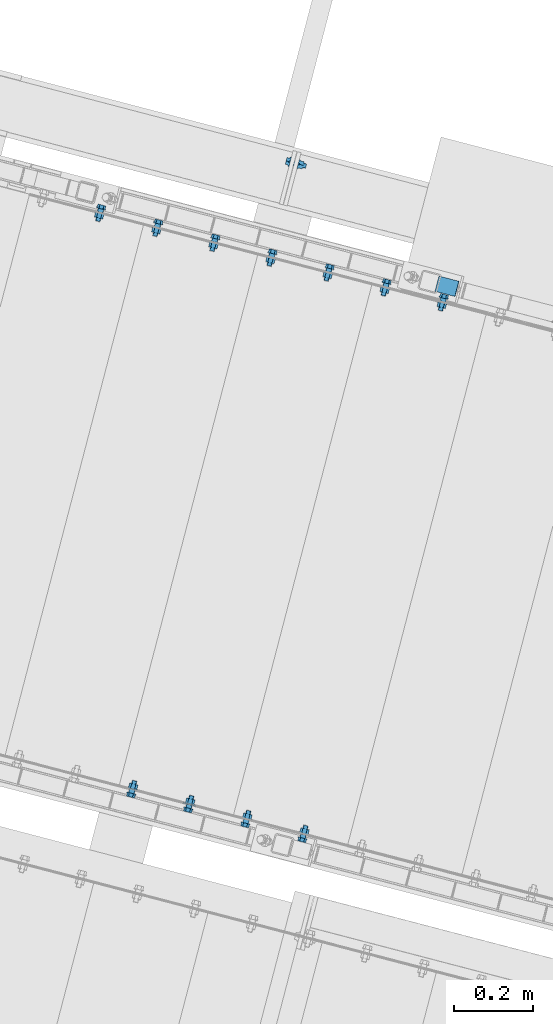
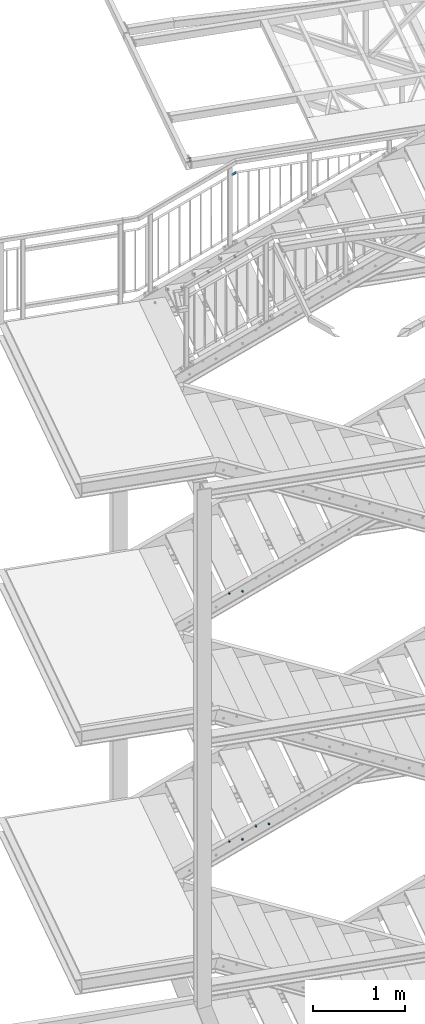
# One storey, part 148 of 169: 14 mechanical fasteners, 1 discrete accessory, 9 elements without a shape of their own.
"""IFC2X3 building model written with IfcOpenShell, lengths in millimetres."""

import ifcopenshell
import ifcopenshell.guid

model = None  # the IFC model being written
_history = None  # IfcOwnerHistory: only IFC2X3 demands one
_inside = {}  # id of a spatial element -> (the spatial element, [elements in it])
_under = {}  # id of a project, library or spatial element -> (it, [spatial elements below it])
_declared = {}  # id of a project -> (the project, [libraries it declares])
_typed = {}  # id of a type object -> (the type object, [elements of that type])
_made_of = {}  # id of a material, layer set ... -> (it, [elements and type objects made of it])


def new_model(schema):
    """Start an empty IFC model of exactly this schema.

    Asked for "IFC4X3", IfcOpenShell would pick the latest addendum, in which some entities
    have other attributes; the version numbers below select the first issue.
    IFC2X3 requires an IfcOwnerHistory on every rooted entity: one is made here for all.
    """
    global model, _history
    if schema == "IFC4X3":
        model = ifcopenshell.file(schema_version=(4, 3, 0, 0))
    else:
        model = ifcopenshell.file(schema=schema)
    _inside.clear()
    _under.clear()
    _declared.clear()
    _typed.clear()
    _made_of.clear()
    _history = None
    if model.schema == "IFC2X3":
        org = make("IfcOrganization", Name="unknown")
        user = make(
            "IfcPersonAndOrganization",
            ThePerson=make("IfcPerson", FamilyName="unknown"),
            TheOrganization=org,
        )
        app = make(
            "IfcApplication",
            ApplicationDeveloper=org,
            Version="unknown",
            ApplicationFullName="unknown",
            ApplicationIdentifier="unknown",
        )
        _history = make(
            "IfcOwnerHistory",
            OwningUser=user,
            OwningApplication=app,
            ChangeAction="ADDED",
            CreationDate=0,
        )
    return model


def make(cls, **values):
    """One entity of the class cls with the attributes given. An attribute that is None is left unset."""
    return model.create_entity(
        cls, **{name: value for name, value in values.items() if value is not None}
    )


def rooted(cls, **values):
    """An entity with a GlobalId (a new one), such as an element, a storey or a relation."""
    return make(cls, GlobalId=ifcopenshell.guid.new(), OwnerHistory=_history, **values)


def si_unit(unit_type, name, prefix=None):
    """IfcSIUnit, for example si_unit("LENGTHUNIT", "METRE", prefix="MILLI")."""
    return make("IfcSIUnit", UnitType=unit_type, Prefix=prefix, Name=name)


def assignment(units):
    """IfcUnitAssignment: the units of a project."""
    return None if units is None else make("IfcUnitAssignment", Units=units)


def point(xyz):
    """IfcCartesianPoint."""
    return None if xyz is None else make("IfcCartesianPoint", Coordinates=xyz)


def direction(xyz):
    """IfcDirection."""
    return None if xyz is None else make("IfcDirection", DirectionRatios=xyz)


def frame(location, z_axis=None, x_axis=None):
    """IfcAxis2Placement3D, a coordinate frame: its origin and axes. An axis left out is left unset."""
    return make(
        "IfcAxis2Placement3D",
        Location=point(location),
        Axis=direction(z_axis),
        RefDirection=direction(x_axis),
    )


def frame_2d(location, x_axis=None):
    """IfcAxis2Placement2D, a coordinate frame in the plane: its origin and x axis."""
    return make(
        "IfcAxis2Placement2D", Location=point(location), RefDirection=direction(x_axis)
    )


def origin_with_axes():
    """The frame at (0, 0, 0) with the z axis (0, 0, 1) and the x axis (1, 0, 0) written out."""
    return frame((0.0, 0.0, 0.0), z_axis=(0.0, 0.0, 1.0), x_axis=(1.0, 0.0, 0.0))


def origin_2d_with_axis():
    """The frame at (0, 0) in the plane with the x axis (1, 0) written out."""
    return frame_2d((0.0, 0.0), x_axis=(1.0, 0.0))


def place(relative_to, where):
    """IfcLocalPlacement: puts the frame where relative to a parent placement (None: the world)."""
    return make(
        "IfcLocalPlacement", PlacementRelTo=relative_to, RelativePlacement=where
    )


def context(
    kind, dimensions, precision=None, world=None, true_north=None, identifier=None
):
    """IfcGeometricRepresentationContext, for example the 3D "Model" context."""
    return make(
        "IfcGeometricRepresentationContext",
        ContextIdentifier=identifier,
        ContextType=kind,
        CoordinateSpaceDimension=dimensions,
        Precision=precision,
        WorldCoordinateSystem=world,
        TrueNorth=true_north,
    )


def subcontext(parent, identifier, kind, view, scale=None):
    """IfcGeometricRepresentationSubContext, for example "Body" below "Model"."""
    return make(
        "IfcGeometricRepresentationSubContext",
        ContextIdentifier=identifier,
        ContextType=kind,
        ParentContext=parent,
        TargetScale=scale,
        TargetView=view,
    )


def project(units=None, contexts=None):
    """IfcProject with its units and contexts."""
    return rooted(
        "IfcProject",
        Name="project",
        RepresentationContexts=contexts,
        UnitsInContext=assignment(units),
    )


def spatial(cls, under=None, at=None, **own):
    """A site, building, storey or space (cls), placed at a placement, below another one or the project."""
    s = rooted(cls, ObjectPlacement=at, **own)
    if under is not None:
        _under.setdefault(under.id(), (under, []))[1].append(s)
    return s


def polyline(points):
    """IfcPolyline through the points."""
    return make("IfcPolyline", Points=[point(p) for p in points])


def circle_curve(where, radius):
    """IfcCircle in the frame where."""
    return make("IfcCircle", Position=where, Radius=radius)


def parameter(value):
    """IfcParameterValue: where a trimmed curve begins or ends, as a parameter of its basis curve."""
    return model.create_entity("IfcParameterValue", value)


def trimmed(basis, trim1, trim2, sense, master):
    """IfcTrimmedCurve: the piece of a basis curve between two trims."""
    return make(
        "IfcTrimmedCurve",
        BasisCurve=basis,
        Trim1=trim1,
        Trim2=trim2,
        SenseAgreement=sense,
        MasterRepresentation=master,
    )


def segment(curve, same_sense, transition):
    """IfcCompositeCurveSegment."""
    return make(
        "IfcCompositeCurveSegment",
        Transition=transition,
        SameSense=same_sense,
        ParentCurve=curve,
    )


def composite_curve(segments, self_intersect=None):
    """IfcCompositeCurve: segments joined end to end."""
    return make("IfcCompositeCurve", Segments=segments, SelfIntersect=self_intersect)


def profile(cls, at=None, kind="AREA", **sizes):
    """A parametric profile (cls). Its sizes go by their IFC names, for example OverallWidth=200.0."""
    return make(cls, ProfileType=kind, Position=at, **sizes)


def rectangle(**sizes):
    """IfcRectangleProfileDef."""
    return profile("IfcRectangleProfileDef", **sizes)


def circle(**sizes):
    """IfcCircleProfileDef."""
    return profile("IfcCircleProfileDef", **sizes)


def outline(outer, holes=None, kind="AREA"):
    """IfcArbitraryClosedProfileDef: a profile drawn as a closed curve; with holes, ...WithVoids."""
    if holes is None:
        return make("IfcArbitraryClosedProfileDef", ProfileType=kind, OuterCurve=outer)
    return make(
        "IfcArbitraryProfileDefWithVoids",
        ProfileType=kind,
        OuterCurve=outer,
        InnerCurves=holes,
    )


def extrude(swept, where, along, depth):
    """IfcExtrudedAreaSolid: the profile swept, set in the frame where, extruded along a direction by depth."""
    return make(
        "IfcExtrudedAreaSolid",
        SweptArea=swept,
        Position=where,
        ExtrudedDirection=direction(along),
        Depth=depth,
    )


def clip(a, b, op="DIFFERENCE"):
    """IfcBooleanClippingResult: the solid a cut by the half space b."""
    return make(
        "IfcBooleanClippingResult", Operator=op, FirstOperand=a, SecondOperand=b
    )


def halfspace(plane, agree):
    """IfcHalfSpaceSolid: all space on one side of the plane z = 0 of the frame plane."""
    return make(
        "IfcHalfSpaceSolid",
        BaseSurface=make("IfcPlane", Position=plane),
        AgreementFlag=agree,
    )


def shape(context_of_items, identifier, shape_type, items):
    """IfcShapeRepresentation: the items that make up one representation, for example the "Body"."""
    return make(
        "IfcShapeRepresentation",
        ContextOfItems=context_of_items,
        RepresentationIdentifier=identifier,
        RepresentationType=shape_type,
        Items=items,
    )


def source(mapping_origin, context_of_items, identifier, shape_type, items):
    """IfcRepresentationMap: a shape defined once, which mapped items show again and again."""
    return make(
        "IfcRepresentationMap",
        MappingOrigin=mapping_origin,
        MappedRepresentation=shape(context_of_items, identifier, shape_type, items),
    )


def transform(
    local_origin,
    x_axis=None,
    y_axis=None,
    z_axis=None,
    scale=None,
    scale2=None,
    scale3=None,
    uniform=True,
):
    """IfcCartesianTransformationOperator3D, or its non-uniform kind. x_axis, y_axis, z_axis: its Axis1, 2, 3."""
    if uniform:
        return make(
            "IfcCartesianTransformationOperator3D",
            Axis1=direction(x_axis),
            Axis2=direction(y_axis),
            LocalOrigin=point(local_origin),
            Scale=scale,
            Axis3=direction(z_axis),
        )
    return make(
        "IfcCartesianTransformationOperator3DnonUniform",
        Axis1=direction(x_axis),
        Axis2=direction(y_axis),
        LocalOrigin=point(local_origin),
        Scale=scale,
        Axis3=direction(z_axis),
        Scale2=scale2,
        Scale3=scale3,
    )


def mapped(mapping_source, mapping_target):
    """IfcMappedItem: shows the shape of a source again, moved by a transform."""
    return make(
        "IfcMappedItem", MappingSource=mapping_source, MappingTarget=mapping_target
    )


def material(Name=None, Category=None):
    """IfcMaterial."""
    return make("IfcMaterial", Name=Name, Category=Category)


def made_of(thing, what):
    """Note that an element or type object is made of a material, layer set ...; save() writes the relation."""
    if what is not None:
        _made_of.setdefault(what.id(), (what, []))[1].append(thing)
    return thing


def type_object(cls, material=None, **own):
    """A type object (cls), such as IfcWallType, which elements share."""
    return made_of(rooted(cls, **own), material)


def element(
    cls,
    number,
    at=None,
    inside=None,
    cuts=None,
    type_object=None,
    material=None,
    context=None,
    identifier="Body",
    shape_type=None,
    held_by="IfcProductDefinitionShape",
    body=None,
    shapes=None,
    **own,
):
    """One element of the class cls, such as IfcWall. Its Tag is "e" and its number.

    at: its placement. inside: the storey or other place that contains it. cuts: it is an
    opening in that element (IfcRelVoidsElement). A single representation is given by context,
    identifier, shape_type and body (its items); several are given by shapes. held_by: the class
    of the entity that holds the representations. save() writes the other relations.
    """
    e = rooted(cls, Tag="e%d" % number, ObjectPlacement=at, **own)
    if body is not None:
        shapes = [shape(context, identifier, shape_type, body)]
    if shapes is not None:
        e.Representation = make(held_by, Representations=shapes)
    if inside is not None:
        _inside.setdefault(inside.id(), (inside, []))[1].append(e)
    if cuts is not None:
        rooted(
            "IfcRelVoidsElement", RelatingBuildingElement=cuts, RelatedOpeningElement=e
        )
    if type_object is not None:
        _typed.setdefault(type_object.id(), (type_object, []))[1].append(e)
    return made_of(e, material)


def aggregate(whole, parts):
    """IfcRelAggregates: a whole, such as a stair, and the parts it consists of."""
    return rooted("IfcRelAggregates", RelatingObject=whole, RelatedObjects=parts)


def save(model, path):
    """Write the relations noted so far, then the file.

    IfcRelAggregates (storeys below a building ...), IfcRelContainedInSpatialStructure (elements
    in a storey), IfcRelDefinesByType, IfcRelAssociatesMaterial and IfcRelDeclares: one each for
    every whole, place, type object, material and project.
    """
    for whole, parts in _under.values():
        aggregate(whole, parts)
    for where, things in _inside.values():
        rooted(
            "IfcRelContainedInSpatialStructure",
            RelatedElements=things,
            RelatingStructure=where,
        )
    for kind, things in _typed.values():
        rooted("IfcRelDefinesByType", RelatedObjects=things, RelatingType=kind)
    for what, things in _made_of.values():
        rooted("IfcRelAssociatesMaterial", RelatedObjects=things, RelatingMaterial=what)
    for by, libraries in _declared.values():
        rooted("IfcRelDeclares", RelatingContext=by, RelatedDefinitions=libraries)
    model.write(path)


model = new_model("IFC2X3")

# Units and contexts
model_context = context("Model", 3, precision=1e-05, world=origin_with_axes())
body_context = subcontext(model_context, "Body", "Model", "MODEL_VIEW")
ifc_project = project(units=[si_unit("LENGTHUNIT", "METRE", prefix="MILLI"), si_unit("AREAUNIT", "SQUARE_METRE"), si_unit("VOLUMEUNIT", "CUBIC_METRE"), si_unit("MASSUNIT", "GRAM", prefix="KILO"), si_unit("TIMEUNIT", "SECOND"), si_unit("PLANEANGLEUNIT", "RADIAN"), si_unit("SOLIDANGLEUNIT", "STERADIAN"), si_unit("THERMODYNAMICTEMPERATUREUNIT", "DEGREE_CELSIUS"), si_unit("LUMINOUSINTENSITYUNIT", "LUMEN")], contexts=[model_context])

# Site, building, storey
site_placement = place(None, origin_with_axes())
site = spatial("IfcSite", under=ifc_project, at=site_placement, Name="Undefined", CompositionType="ELEMENT")
building_placement = place(site_placement, origin_with_axes())
building = spatial("IfcBuilding", under=site, at=building_placement, Name="Undefined", CompositionType="ELEMENT")
storey_placement = place(building_placement, origin_with_axes())
storey = spatial("IfcBuildingStorey", under=building, at=storey_placement, Name="Undefined", CompositionType="ELEMENT", Elevation=0.0)

# Assembly, discrete accessory
assembly_1_placement = place(storey_placement, origin_with_axes())
assembly_1 = element("IfcElementAssembly", 1, at=assembly_1_placement, inside=storey, Name="Steel Assembly", AssemblyPlace="NOTDEFINED", PredefinedType="RIGID_FRAME")
ifc_material_1 = material(Name="STEEL/S235")
discrete_accessory_type_1 = type_object("IfcDiscreteAccessoryType", Name="PORĘCZ")
discrete_accessory_placement = place(assembly_1_placement, frame((-26450.4044649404, 8514.82342491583, 13875.1899079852), z_axis=(-0.252628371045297, -0.967563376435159, 0.000136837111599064), x_axis=(-0.8654304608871, 0.225898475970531, -0.447213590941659)))
discrete_accessory = element("IfcDiscreteAccessory", 2, at=discrete_accessory_placement, type_object=discrete_accessory_type_1, material=ifc_material_1, Name="PORĘCZ", ObjectType="BL40*3", context=body_context, shape_type="Clipping", body=[
    clip(extrude(rectangle(XDim=3.0, YDim=40.0, at=origin_2d_with_axis()), frame((92.0000000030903, 0.0, 1.79883451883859e-13), z_axis=(-1.0, -3.46944695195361e-18, -1.38777878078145e-17), x_axis=(1.73472347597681e-18, -1.0, 0.0)), (0.0, 0.0, 1.0), 77.9), halfspace(frame((33.6238353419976, -1.50000001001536, -5.17258669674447e-07), z_axis=(0.973248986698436, -0.229752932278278, -2.43848151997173e-10), x_axis=(0.0, 0.0, 1.0)), True)),
])
aggregate(assembly_1, [discrete_accessory])

# Assembly, mechanical fastener
assembly_2_placement = place(storey_placement, origin_with_axes())
assembly_2 = element("IfcElementAssembly", 3, at=assembly_2_placement, inside=storey, Name="Steel Assembly", AssemblyPlace="NOTDEFINED", PredefinedType="RIGID_FRAME")
ifc_material_2 = material(Name="Undefined")
discrete_accessory_type_2 = type_object("IfcDiscreteAccessoryType", Name="Bolt assembly")
shared_shape_1 = source(origin_with_axes(), body_context, "Body", "SweptSolid", [
    extrude(circle(Radius=7.5, at=origin_2d_with_axis()), frame((0.0, -10.3965103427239, 0.0), z_axis=(0.0, 1.0, 0.0), x_axis=(1.0, 0.0, 0.0)), (0.0, 0.0, 1.0), 10.0),
    extrude(outline(composite_curve([segment(polyline([(7.5, 7.5), (7.5, -7.5)]), True, "CONTINUOUS"), segment(trimmed(circle_curve(frame_2d((0.0, -7.5), x_axis=(1.0, 0.0)), 7.5), [parameter(0.0)], [parameter(3.14159265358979)], False, "PARAMETER"), True, "CONTINUOUS"), segment(polyline([(-7.5, -7.5), (-7.5, 7.5)]), True, "CONTINUOUS"), segment(trimmed(circle_curve(frame_2d((0.0, 7.5), x_axis=(-1.0, 0.0)), 7.5), [parameter(0.0)], [parameter(3.14159265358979)], False, "PARAMETER"), True, "DISCONTINUOUS")], self_intersect=False)), frame((0.0, 0.400000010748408, 0.0), z_axis=(0.0, 1.0, 0.0), x_axis=(1.0, 0.0, 0.0)), (0.0, 0.0, 1.0), 10.1),
    extrude(outline(polyline([(10.39230484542, 0.0), (5.19615242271, 9.00000000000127), (-5.19615242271, 9.00000000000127), (-10.39230484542, 0.0), (-5.19615242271, -9.00000000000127), (5.19615242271, -9.00000000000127), (10.39230484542, 0.0)])), frame((0.0, -20.9965103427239, 0.0), z_axis=(0.0, 1.0, 0.0), x_axis=(1.0, 0.0, 0.0)), (0.0, 0.0, 1.0), 7.5),
    extrude(circle(Radius=6.0, at=origin_2d_with_axis()), frame((0.0, -13.4965103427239, 0.0), z_axis=(0.0, 1.0, 0.0), x_axis=(1.0, 0.0, 0.0)), (0.0, 0.0, 1.0), 45.0),
    extrude(circle(Radius=12.0, at=origin_2d_with_axis()), frame((0.0, -13.4965103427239, 0.0), z_axis=(0.0, 1.0, 0.0), x_axis=(1.0, 0.0, 0.0)), (0.0, 0.0, 1.0), 3.0),
    extrude(circle(Radius=12.0, at=origin_2d_with_axis()), frame((0.0, 10.500000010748, 0.0), z_axis=(0.0, 1.0, 0.0), x_axis=(1.0, 0.0, 0.0)), (0.0, 0.0, 1.0), 3.0),
    extrude(outline(polyline([(10.96965511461, 0.0), (5.484827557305, 9.50000000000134), (-5.484827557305, 9.50000000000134), (-10.96965511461, 0.0), (-5.484827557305, -9.50000000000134), (5.484827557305, -9.50000000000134), (10.96965511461, 0.0)])), frame((0.0, 13.500000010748, 0.0), z_axis=(0.0, 1.0, 0.0), x_axis=(1.0, 0.0, 0.0)), (0.0, 0.0, 1.0), 10.0),
])
mechanical_fastener_1_placement = place(assembly_2_placement, frame((-26911.3680957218, 8774.7127641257, 13925.7200481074), z_axis=(0.252628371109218, 0.967563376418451, -0.000136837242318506), x_axis=(0.000174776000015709, 9.57910000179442e-05, 0.999999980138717)))
mechanical_fastener_1 = element("IfcMechanicalFastener", 4, at=mechanical_fastener_1_placement, type_object=discrete_accessory_type_2, material=ifc_material_2, Name="Bolt assembly", NominalDiameter=12.0, NominalLength=45.0, context=body_context, shape_type="MappedRepresentation", body=[
    mapped(shared_shape_1, transform((30.0000000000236, 4.00177668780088e-11, 69.9999999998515))),
    mapped(shared_shape_1, transform((70.0000000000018, 0.0, 69.999999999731))),
])
aggregate(assembly_2, [mechanical_fastener_1])

assembly_3_placement = place(storey_placement, origin_with_axes())
assembly_3 = element("IfcElementAssembly", 5, at=assembly_3_placement, inside=storey, Name="Steel Assembly", AssemblyPlace="NOTDEFINED", PredefinedType="RIGID_FRAME")
shared_shape_2 = source(origin_with_axes(), body_context, "Body", "SweptSolid", [
    extrude(circle(Radius=7.5, at=origin_2d_with_axis()), frame((0.0, -8.39999975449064, 0.0), z_axis=(0.0, 1.0, 0.0), x_axis=(1.0, 0.0, 0.0)), (0.0, 0.0, 1.0), 8.5),
    extrude(circle(Radius=7.5, at=origin_2d_with_axis()), frame((0.0, -0.100000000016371, 0.0), z_axis=(0.0, 1.0, 0.0), x_axis=(1.0, 0.0, 0.0)), (0.0, 0.0, 1.0), 3.1),
    extrude(outline(polyline([(10.39230484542, 0.0), (5.19615242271, 9.00000000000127), (-5.19615242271, 9.00000000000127), (-10.39230484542, 0.0), (-5.19615242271, -9.00000000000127), (5.19615242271, -9.00000000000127), (10.39230484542, 0.0)])), frame((0.0, -18.4999993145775, 0.0), z_axis=(0.0, 1.0, 0.0), x_axis=(1.0, 0.0, 0.0)), (0.0, 0.0, 1.0), 7.5),
    extrude(circle(Radius=6.0, at=origin_2d_with_axis()), frame((0.0, -10.9999999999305, 0.0), z_axis=(0.0, 1.0, 0.0), x_axis=(1.0, 0.0, 0.0)), (0.0, 0.0, 1.0), 35.0),
    extrude(circle(Radius=12.0, at=origin_2d_with_axis()), frame((0.0, -10.9999999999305, 0.0), z_axis=(0.0, 1.0, 0.0), x_axis=(1.0, 0.0, 0.0)), (0.0, 0.0, 1.0), 2.5),
    extrude(circle(Radius=12.0, at=origin_2d_with_axis()), frame((0.0, 2.99999999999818, 0.0), z_axis=(0.0, 1.0, 0.0), x_axis=(1.0, 0.0, 0.0)), (0.0, 0.0, 1.0), 2.5),
    extrude(outline(polyline([(10.96965511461, 0.0), (5.484827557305, 9.50000000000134), (-5.484827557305, 9.50000000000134), (-10.96965511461, 0.0), (-5.484827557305, -9.50000000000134), (5.484827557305, -9.50000000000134), (10.96965511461, 0.0)])), frame((0.0, 5.50000000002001, 0.0), z_axis=(0.0, 1.0, 0.0), x_axis=(1.0, 0.0, 0.0)), (0.0, 0.0, 1.0), 10.0),
])
mechanical_fastener_2_placement = place(assembly_3_placement, frame((-26695.0254011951, 8537.20456754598, 12800.0957858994), z_axis=(-2.54700353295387e-10, 0.0, -1.0), x_axis=(0.967580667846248, -0.252562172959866, 0.0)))
mechanical_fastener_2 = element("IfcMechanicalFastener", 6, at=mechanical_fastener_2_placement, type_object=discrete_accessory_type_2, material=ifc_material_2, Name="Bolt assembly", NominalDiameter=12.0, NominalLength=35.0, context=body_context, shape_type="MappedRepresentation", body=[
    mapped(shared_shape_2, transform((35.0000000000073, -1.23691279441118e-10, 25.0))),
])

assembly_4_placement = place(storey_placement, origin_with_axes())
assembly_4 = element("IfcElementAssembly", 7, at=assembly_4_placement, inside=storey, Name="Steel Assembly", AssemblyPlace="NOTDEFINED", PredefinedType="RIGID_FRAME")
mechanical_fastener_3_placement = place(assembly_4_placement, frame((-26985.2996049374, 8612.97322035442, 12650.0957859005), z_axis=(-2.54700353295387e-10, 0.0, -1.0), x_axis=(0.967580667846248, -0.252562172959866, 0.0)))
mechanical_fastener_3 = element("IfcMechanicalFastener", 8, at=mechanical_fastener_3_placement, type_object=discrete_accessory_type_2, material=ifc_material_2, Name="Bolt assembly", NominalDiameter=12.0, NominalLength=35.0, context=body_context, shape_type="MappedRepresentation", body=[
    mapped(shared_shape_2, transform((35.0000000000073, -1.23691279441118e-10, 25.0))),
])

assembly_5_placement = place(storey_placement, origin_with_axes())
assembly_5 = element("IfcElementAssembly", 9, at=assembly_5_placement, inside=storey, Name="Steel Assembly", AssemblyPlace="NOTDEFINED", PredefinedType="RIGID_FRAME")
mechanical_fastener_4_placement = place(assembly_5_placement, frame((-27275.5738086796, 8688.74187316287, 12500.0957859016), z_axis=(-2.54700353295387e-10, 0.0, -1.0), x_axis=(0.967580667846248, -0.252562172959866, 0.0)))
mechanical_fastener_4 = element("IfcMechanicalFastener", 10, at=mechanical_fastener_4_placement, type_object=discrete_accessory_type_2, material=ifc_material_2, Name="Bolt assembly", NominalDiameter=12.0, NominalLength=35.0, context=body_context, shape_type="MappedRepresentation", body=[
    mapped(shared_shape_2, transform((35.0000000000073, -1.23691279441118e-10, 25.0))),
])

assembly_6_placement = place(storey_placement, origin_with_axes())
assembly_6 = element("IfcElementAssembly", 11, at=assembly_6_placement, inside=storey, Name="Steel Assembly", AssemblyPlace="NOTDEFINED", PredefinedType="RIGID_FRAME")
mechanical_fastener_5_placement = place(assembly_6_placement, frame((-27048.7265246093, 7182.15471713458, 9350.0958168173), z_axis=(-2.54700353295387e-10, 0.0, -1.0), x_axis=(-0.967580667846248, 0.252562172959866, 0.0)))
mechanical_fastener_5 = element("IfcMechanicalFastener", 12, at=mechanical_fastener_5_placement, type_object=discrete_accessory_type_2, material=ifc_material_2, Name="Bolt assembly", NominalDiameter=12.0, NominalLength=35.0, context=body_context, shape_type="MappedRepresentation", body=[
    mapped(shared_shape_2, transform((264.999998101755, 3.26144800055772e-09, 24.9999997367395))),
])

assembly_7_placement = place(storey_placement, origin_with_axes())
assembly_7 = element("IfcElementAssembly", 13, at=assembly_7_placement, inside=storey, Name="Steel Assembly", AssemblyPlace="NOTDEFINED", PredefinedType="RIGID_FRAME")
mechanical_fastener_6_placement = place(assembly_7_placement, frame((-26758.566398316, 7105.94914938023, 6200.09584768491), z_axis=(-2.54700353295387e-10, 0.0, -1.0), x_axis=(-0.967580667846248, 0.252562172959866, 0.0)))
mechanical_fastener_6 = element("IfcMechanicalFastener", 14, at=mechanical_fastener_6_placement, type_object=discrete_accessory_type_2, material=ifc_material_2, Name="Bolt assembly", NominalDiameter=12.0, NominalLength=35.0, context=body_context, shape_type="MappedRepresentation", body=[
    mapped(shared_shape_2, transform((264.999998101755, 3.26144800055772e-09, 24.9999997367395))),
])

assembly_8_placement = place(storey_placement, origin_with_axes())
assembly_8 = element("IfcElementAssembly", 15, at=assembly_8_placement, inside=storey, Name="Steel Assembly", AssemblyPlace="NOTDEFINED", PredefinedType="RIGID_FRAME")
mechanical_fastener_7_placement = place(assembly_8_placement, frame((-27048.8406020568, 7181.71780219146, 6050.09584768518), z_axis=(-2.54700353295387e-10, 0.0, -1.0), x_axis=(-0.967580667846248, 0.252562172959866, 0.0)))
mechanical_fastener_7 = element("IfcMechanicalFastener", 16, at=mechanical_fastener_7_placement, type_object=discrete_accessory_type_2, material=ifc_material_2, Name="Bolt assembly", NominalDiameter=12.0, NominalLength=35.0, context=body_context, shape_type="MappedRepresentation", body=[
    mapped(shared_shape_2, transform((264.999998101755, 3.26144800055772e-09, 24.9999997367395))),
])

# Mechanical fastener
shared_shape_3 = source(origin_with_axes(), body_context, "Body", "SweptSolid", [
    extrude(circle(Radius=7.5, at=origin_2d_with_axis()), frame((0.0, -8.39999975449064, 0.0), z_axis=(0.0, 1.0, 0.0), x_axis=(1.0, 0.0, 0.0)), (0.0, 0.0, 1.0), 8.5),
    extrude(outline(composite_curve([segment(polyline([(-10.0, 7.5), (10.0, 7.5)]), True, "CONTINUOUS"), segment(trimmed(circle_curve(frame_2d((10.0, 0.0), x_axis=(0.0, 1.0)), 7.5), [parameter(0.0)], [parameter(3.14159265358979)], False, "PARAMETER"), True, "CONTINUOUS"), segment(polyline([(10.0, -7.5), (-10.0, -7.5)]), True, "CONTINUOUS"), segment(trimmed(circle_curve(frame_2d((-10.0, 0.0), x_axis=(0.0, -1.0)), 7.5), [parameter(0.0)], [parameter(3.14159265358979)], False, "PARAMETER"), True, "DISCONTINUOUS")], self_intersect=False)), frame((0.0, -0.100000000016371, 0.0), z_axis=(0.0, 1.0, 0.0), x_axis=(1.0, 0.0, 0.0)), (0.0, 0.0, 1.0), 3.1),
    extrude(outline(polyline([(10.39230484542, 0.0), (5.19615242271, 9.00000000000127), (-5.19615242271, 9.00000000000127), (-10.39230484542, 0.0), (-5.19615242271, -9.00000000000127), (5.19615242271, -9.00000000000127), (10.39230484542, 0.0)])), frame((0.0, -18.4999993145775, 0.0), z_axis=(0.0, 1.0, 0.0), x_axis=(1.0, 0.0, 0.0)), (0.0, 0.0, 1.0), 7.5),
    extrude(circle(Radius=6.0, at=origin_2d_with_axis()), frame((0.0, -10.9999999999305, 0.0), z_axis=(0.0, 1.0, 0.0), x_axis=(1.0, 0.0, 0.0)), (0.0, 0.0, 1.0), 35.0),
    extrude(circle(Radius=12.0, at=origin_2d_with_axis()), frame((0.0, -10.9999999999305, 0.0), z_axis=(0.0, 1.0, 0.0), x_axis=(1.0, 0.0, 0.0)), (0.0, 0.0, 1.0), 2.5),
    extrude(circle(Radius=12.0, at=origin_2d_with_axis()), frame((0.0, 2.99999999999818, 0.0), z_axis=(0.0, 1.0, 0.0), x_axis=(1.0, 0.0, 0.0)), (0.0, 0.0, 1.0), 2.5),
    extrude(outline(polyline([(10.96965511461, 0.0), (5.484827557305, 9.50000000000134), (-5.484827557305, 9.50000000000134), (-10.96965511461, 0.0), (-5.484827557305, -9.50000000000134), (5.484827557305, -9.50000000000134), (10.96965511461, 0.0)])), frame((0.0, 5.50000000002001, 0.0), z_axis=(0.0, 1.0, 0.0), x_axis=(1.0, 0.0, 0.0)), (0.0, 0.0, 1.0), 10.0),
])
mechanical_fastener_8_placement = place(assembly_3_placement, frame((-26695.0254011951, 8537.20456754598, 12800.0957858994), z_axis=(-2.54700353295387e-10, 0.0, -1.0), x_axis=(0.967580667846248, -0.252562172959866, 0.0)))
mechanical_fastener_8 = element("IfcMechanicalFastener", 17, at=mechanical_fastener_8_placement, type_object=discrete_accessory_type_2, material=ifc_material_2, Name="Bolt assembly", NominalDiameter=12.0, NominalLength=35.0, context=body_context, shape_type="MappedRepresentation", body=[
    mapped(shared_shape_3, transform((185.00000000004, -6.51198206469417e-10, 25.0))),
])

aggregate(assembly_3, [mechanical_fastener_8, mechanical_fastener_2])

shared_shape_4 = source(origin_with_axes(), body_context, "Body", "SweptSolid", [
    extrude(circle(Radius=7.5, at=origin_2d_with_axis()), frame((0.0, -8.39999975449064, 0.0), z_axis=(0.0, 1.0, 0.0), x_axis=(1.0, 0.0, 0.0)), (0.0, 0.0, 1.0), 8.5),
    extrude(outline(composite_curve([segment(polyline([(-10.0, 7.5), (10.0, 7.5)]), True, "CONTINUOUS"), segment(trimmed(circle_curve(frame_2d((10.0, 0.0), x_axis=(0.0, 1.0)), 7.5), [parameter(0.0)], [parameter(3.14159265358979)], False, "PARAMETER"), True, "CONTINUOUS"), segment(polyline([(10.0, -7.5), (-10.0, -7.5)]), True, "CONTINUOUS"), segment(trimmed(circle_curve(frame_2d((-10.0, 0.0), x_axis=(0.0, -1.0)), 7.5), [parameter(0.0)], [parameter(3.14159265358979)], False, "PARAMETER"), True, "DISCONTINUOUS")], self_intersect=False)), frame((0.0, -0.100000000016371, 0.0), z_axis=(0.0, 1.0, 0.0), x_axis=(1.0, 0.0, 0.0)), (0.0, 0.0, 1.0), 3.1),
    extrude(outline(polyline([(10.39230484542, 0.0), (5.19615242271, 9.00000000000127), (-5.19615242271, 9.00000000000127), (-10.39230484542, 0.0), (-5.19615242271, -9.00000000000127), (5.19615242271, -9.00000000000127), (10.39230484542, 0.0)])), frame((0.0, -18.4999993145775, 0.0), z_axis=(0.0, 1.0, 0.0), x_axis=(1.0, 0.0, 0.0)), (0.0, 0.0, 1.0), 7.5),
    extrude(circle(Radius=6.0, at=origin_2d_with_axis()), frame((0.0, -10.9999999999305, 0.0), z_axis=(0.0, 1.0, 0.0), x_axis=(1.0, 0.0, 0.0)), (0.0, 0.0, 1.0), 35.0),
    extrude(circle(Radius=12.0, at=origin_2d_with_axis()), frame((0.0, -10.9999999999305, 0.0), z_axis=(0.0, 1.0, 0.0), x_axis=(1.0, 0.0, 0.0)), (0.0, 0.0, 1.0), 2.5),
    extrude(circle(Radius=12.0, at=origin_2d_with_axis()), frame((0.0, 2.99999999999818, 0.0), z_axis=(0.0, 1.0, 0.0), x_axis=(1.0, 0.0, 0.0)), (0.0, 0.0, 1.0), 2.5),
    extrude(outline(polyline([(10.96965511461, 0.0), (5.484827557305, 9.50000000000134), (-5.484827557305, 9.50000000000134), (-10.96965511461, 0.0), (-5.484827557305, -9.50000000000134), (5.484827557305, -9.50000000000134), (10.96965511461, 0.0)])), frame((0.0, 5.50000000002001, 0.0), z_axis=(0.0, 1.0, 0.0), x_axis=(1.0, 0.0, 0.0)), (0.0, 0.0, 1.0), 10.0),
])
mechanical_fastener_9_placement = place(assembly_4_placement, frame((-26985.2996049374, 8612.97322035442, 12650.0957859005), z_axis=(-2.54700353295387e-10, 0.0, -1.0), x_axis=(0.967580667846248, -0.252562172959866, 0.0)))
mechanical_fastener_9 = element("IfcMechanicalFastener", 18, at=mechanical_fastener_9_placement, type_object=discrete_accessory_type_2, material=ifc_material_2, Name="Bolt assembly", NominalDiameter=12.0, NominalLength=35.0, context=body_context, shape_type="MappedRepresentation", body=[
    mapped(shared_shape_4, transform((185.00000000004, -6.51198206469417e-10, 25.0))),
])

aggregate(assembly_4, [mechanical_fastener_9, mechanical_fastener_3])

shared_shape_5 = source(origin_with_axes(), body_context, "Body", "SweptSolid", [
    extrude(circle(Radius=7.5, at=origin_2d_with_axis()), frame((0.0, -8.39999975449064, 0.0), z_axis=(0.0, 1.0, 0.0), x_axis=(1.0, 0.0, 0.0)), (0.0, 0.0, 1.0), 8.5),
    extrude(outline(composite_curve([segment(polyline([(-10.0, 7.5), (10.0, 7.5)]), True, "CONTINUOUS"), segment(trimmed(circle_curve(frame_2d((10.0, 0.0), x_axis=(0.0, 1.0)), 7.5), [parameter(0.0)], [parameter(3.14159265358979)], False, "PARAMETER"), True, "CONTINUOUS"), segment(polyline([(10.0, -7.5), (-10.0, -7.5)]), True, "CONTINUOUS"), segment(trimmed(circle_curve(frame_2d((-10.0, 0.0), x_axis=(0.0, -1.0)), 7.5), [parameter(0.0)], [parameter(3.14159265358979)], False, "PARAMETER"), True, "DISCONTINUOUS")], self_intersect=False)), frame((0.0, -0.100000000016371, 0.0), z_axis=(0.0, 1.0, 0.0), x_axis=(1.0, 0.0, 0.0)), (0.0, 0.0, 1.0), 3.1),
    extrude(outline(polyline([(10.39230484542, 0.0), (5.19615242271, 9.00000000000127), (-5.19615242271, 9.00000000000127), (-10.39230484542, 0.0), (-5.19615242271, -9.00000000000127), (5.19615242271, -9.00000000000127), (10.39230484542, 0.0)])), frame((0.0, -18.4999993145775, 0.0), z_axis=(0.0, 1.0, 0.0), x_axis=(1.0, 0.0, 0.0)), (0.0, 0.0, 1.0), 7.5),
    extrude(circle(Radius=6.0, at=origin_2d_with_axis()), frame((0.0, -10.9999999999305, 0.0), z_axis=(0.0, 1.0, 0.0), x_axis=(1.0, 0.0, 0.0)), (0.0, 0.0, 1.0), 35.0),
    extrude(circle(Radius=12.0, at=origin_2d_with_axis()), frame((0.0, -10.9999999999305, 0.0), z_axis=(0.0, 1.0, 0.0), x_axis=(1.0, 0.0, 0.0)), (0.0, 0.0, 1.0), 2.5),
    extrude(circle(Radius=12.0, at=origin_2d_with_axis()), frame((0.0, 2.99999999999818, 0.0), z_axis=(0.0, 1.0, 0.0), x_axis=(1.0, 0.0, 0.0)), (0.0, 0.0, 1.0), 2.5),
    extrude(outline(polyline([(10.96965511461, 0.0), (5.484827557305, 9.50000000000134), (-5.484827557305, 9.50000000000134), (-10.96965511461, 0.0), (-5.484827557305, -9.50000000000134), (5.484827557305, -9.50000000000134), (10.96965511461, 0.0)])), frame((0.0, 5.50000000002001, 0.0), z_axis=(0.0, 1.0, 0.0), x_axis=(1.0, 0.0, 0.0)), (0.0, 0.0, 1.0), 10.0),
])
mechanical_fastener_10_placement = place(assembly_5_placement, frame((-27275.5738086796, 8688.74187316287, 12500.0957859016), z_axis=(-2.54700353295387e-10, 0.0, -1.0), x_axis=(0.967580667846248, -0.252562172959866, 0.0)))
mechanical_fastener_10 = element("IfcMechanicalFastener", 19, at=mechanical_fastener_10_placement, type_object=discrete_accessory_type_2, material=ifc_material_2, Name="Bolt assembly", NominalDiameter=12.0, NominalLength=35.0, context=body_context, shape_type="MappedRepresentation", body=[
    mapped(shared_shape_5, transform((185.00000000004, -6.51198206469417e-10, 25.0))),
])

aggregate(assembly_5, [mechanical_fastener_10, mechanical_fastener_4])

# Assembly, mechanical fastener
assembly_9_placement = place(storey_placement, origin_with_axes())
assembly_9 = element("IfcElementAssembly", 20, at=assembly_9_placement, inside=storey, Name="Steel Assembly", AssemblyPlace="NOTDEFINED", PredefinedType="RIGID_FRAME")
shared_shape_6 = source(origin_with_axes(), body_context, "Body", "SweptSolid", [
    extrude(circle(Radius=7.5, at=origin_2d_with_axis()), frame((0.0, -8.39999975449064, 0.0), z_axis=(0.0, 1.0, 0.0), x_axis=(1.0, 0.0, 0.0)), (0.0, 0.0, 1.0), 8.5),
    extrude(outline(composite_curve([segment(polyline([(-10.0, 7.5), (10.0, 7.5)]), True, "CONTINUOUS"), segment(trimmed(circle_curve(frame_2d((10.0, 0.0), x_axis=(0.0, 1.0)), 7.5), [parameter(0.0)], [parameter(3.14159265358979)], False, "PARAMETER"), True, "CONTINUOUS"), segment(polyline([(10.0, -7.5), (-10.0, -7.5)]), True, "CONTINUOUS"), segment(trimmed(circle_curve(frame_2d((-10.0, 0.0), x_axis=(0.0, -1.0)), 7.5), [parameter(0.0)], [parameter(3.14159265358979)], False, "PARAMETER"), True, "DISCONTINUOUS")], self_intersect=False)), frame((0.0, -0.100000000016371, 0.0), z_axis=(0.0, 1.0, 0.0), x_axis=(1.0, 0.0, 0.0)), (0.0, 0.0, 1.0), 3.1),
    extrude(outline(polyline([(10.39230484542, 0.0), (5.19615242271, 9.00000000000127), (-5.19615242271, 9.00000000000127), (-10.39230484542, 0.0), (-5.19615242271, -9.00000000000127), (5.19615242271, -9.00000000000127), (10.39230484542, 0.0)])), frame((0.0, -18.4999993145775, 0.0), z_axis=(0.0, 1.0, 0.0), x_axis=(1.0, 0.0, 0.0)), (0.0, 0.0, 1.0), 7.5),
    extrude(circle(Radius=6.0, at=origin_2d_with_axis()), frame((0.0, -10.9999999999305, 0.0), z_axis=(0.0, 1.0, 0.0), x_axis=(1.0, 0.0, 0.0)), (0.0, 0.0, 1.0), 35.0),
    extrude(circle(Radius=12.0, at=origin_2d_with_axis()), frame((0.0, -10.9999999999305, 0.0), z_axis=(0.0, 1.0, 0.0), x_axis=(1.0, 0.0, 0.0)), (0.0, 0.0, 1.0), 2.5),
    extrude(circle(Radius=12.0, at=origin_2d_with_axis()), frame((0.0, 2.99999999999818, 0.0), z_axis=(0.0, 1.0, 0.0), x_axis=(1.0, 0.0, 0.0)), (0.0, 0.0, 1.0), 2.5),
    extrude(outline(polyline([(10.96965511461, 0.0), (5.484827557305, 9.50000000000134), (-5.484827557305, 9.50000000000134), (-10.96965511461, 0.0), (-5.484827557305, -9.50000000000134), (5.484827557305, -9.50000000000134), (10.96965511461, 0.0)])), frame((0.0, 5.50000000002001, 0.0), z_axis=(0.0, 1.0, 0.0), x_axis=(1.0, 0.0, 0.0)), (0.0, 0.0, 1.0), 10.0),
])
mechanical_fastener_11_placement = place(assembly_9_placement, frame((-27565.8480124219, 8764.51052597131, 12350.0957859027), z_axis=(-2.54700353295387e-10, 0.0, -1.0), x_axis=(0.967580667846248, -0.252562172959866, 0.0)))
mechanical_fastener_11 = element("IfcMechanicalFastener", 21, at=mechanical_fastener_11_placement, type_object=discrete_accessory_type_2, material=ifc_material_2, Name="Bolt assembly", NominalDiameter=12.0, NominalLength=35.0, context=body_context, shape_type="MappedRepresentation", body=[
    mapped(shared_shape_6, transform((185.00000000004, -6.51198206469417e-10, 25.0))),
])
aggregate(assembly_9, [mechanical_fastener_11])

# Mechanical fastener
shared_shape_7 = source(origin_with_axes(), body_context, "Body", "SweptSolid", [
    extrude(circle(Radius=7.5, at=origin_2d_with_axis()), frame((0.0, -8.39999975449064, 0.0), z_axis=(0.0, 1.0, 0.0), x_axis=(1.0, 0.0, 0.0)), (0.0, 0.0, 1.0), 8.5),
    extrude(outline(composite_curve([segment(polyline([(-10.0, 7.5), (10.0, 7.5)]), True, "CONTINUOUS"), segment(trimmed(circle_curve(frame_2d((10.0, 0.0), x_axis=(0.0, 1.0)), 7.5), [parameter(0.0)], [parameter(3.14159265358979)], False, "PARAMETER"), True, "CONTINUOUS"), segment(polyline([(10.0, -7.5), (-10.0, -7.5)]), True, "CONTINUOUS"), segment(trimmed(circle_curve(frame_2d((-10.0, 0.0), x_axis=(0.0, -1.0)), 7.5), [parameter(0.0)], [parameter(3.14159265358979)], False, "PARAMETER"), True, "DISCONTINUOUS")], self_intersect=False)), frame((0.0, -0.100000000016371, 0.0), z_axis=(0.0, 1.0, 0.0), x_axis=(1.0, 0.0, 0.0)), (0.0, 0.0, 1.0), 3.1),
    extrude(outline(polyline([(10.39230484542, 0.0), (5.19615242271, 9.00000000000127), (-5.19615242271, 9.00000000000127), (-10.39230484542, 0.0), (-5.19615242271, -9.00000000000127), (5.19615242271, -9.00000000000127), (10.39230484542, 0.0)])), frame((0.0, -18.4999993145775, 0.0), z_axis=(0.0, 1.0, 0.0), x_axis=(1.0, 0.0, 0.0)), (0.0, 0.0, 1.0), 7.5),
    extrude(circle(Radius=6.0, at=origin_2d_with_axis()), frame((0.0, -10.9999999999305, 0.0), z_axis=(0.0, 1.0, 0.0), x_axis=(1.0, 0.0, 0.0)), (0.0, 0.0, 1.0), 35.0),
    extrude(circle(Radius=12.0, at=origin_2d_with_axis()), frame((0.0, -10.9999999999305, 0.0), z_axis=(0.0, 1.0, 0.0), x_axis=(1.0, 0.0, 0.0)), (0.0, 0.0, 1.0), 2.5),
    extrude(circle(Radius=12.0, at=origin_2d_with_axis()), frame((0.0, 2.99999999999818, 0.0), z_axis=(0.0, 1.0, 0.0), x_axis=(1.0, 0.0, 0.0)), (0.0, 0.0, 1.0), 2.5),
    extrude(outline(polyline([(10.96965511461, 0.0), (5.484827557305, 9.50000000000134), (-5.484827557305, 9.50000000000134), (-10.96965511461, 0.0), (-5.484827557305, -9.50000000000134), (5.484827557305, -9.50000000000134), (10.96965511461, 0.0)])), frame((0.0, 5.50000000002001, 0.0), z_axis=(0.0, 1.0, 0.0), x_axis=(1.0, 0.0, 0.0)), (0.0, 0.0, 1.0), 10.0),
])
mechanical_fastener_12_placement = place(assembly_6_placement, frame((-27048.7265246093, 7182.15471713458, 9350.0958168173), z_axis=(-2.54700353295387e-10, 0.0, -1.0), x_axis=(-0.967580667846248, 0.252562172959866, 0.0)))
mechanical_fastener_12 = element("IfcMechanicalFastener", 22, at=mechanical_fastener_12_placement, type_object=discrete_accessory_type_2, material=ifc_material_2, Name="Bolt assembly", NominalDiameter=12.0, NominalLength=35.0, context=body_context, shape_type="MappedRepresentation", body=[
    mapped(shared_shape_7, transform((115.000000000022, -4.04725142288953e-10, 25.0))),
])

aggregate(assembly_6, [mechanical_fastener_12, mechanical_fastener_5])

shared_shape_8 = source(origin_with_axes(), body_context, "Body", "SweptSolid", [
    extrude(circle(Radius=7.5, at=origin_2d_with_axis()), frame((0.0, -8.39999975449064, 0.0), z_axis=(0.0, 1.0, 0.0), x_axis=(1.0, 0.0, 0.0)), (0.0, 0.0, 1.0), 8.5),
    extrude(outline(composite_curve([segment(polyline([(-10.0, 7.5), (10.0, 7.5)]), True, "CONTINUOUS"), segment(trimmed(circle_curve(frame_2d((10.0, 0.0), x_axis=(0.0, 1.0)), 7.5), [parameter(0.0)], [parameter(3.14159265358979)], False, "PARAMETER"), True, "CONTINUOUS"), segment(polyline([(10.0, -7.5), (-10.0, -7.5)]), True, "CONTINUOUS"), segment(trimmed(circle_curve(frame_2d((-10.0, 0.0), x_axis=(0.0, -1.0)), 7.5), [parameter(0.0)], [parameter(3.14159265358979)], False, "PARAMETER"), True, "DISCONTINUOUS")], self_intersect=False)), frame((0.0, -0.100000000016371, 0.0), z_axis=(0.0, 1.0, 0.0), x_axis=(1.0, 0.0, 0.0)), (0.0, 0.0, 1.0), 3.1),
    extrude(outline(polyline([(10.39230484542, 0.0), (5.19615242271, 9.00000000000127), (-5.19615242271, 9.00000000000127), (-10.39230484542, 0.0), (-5.19615242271, -9.00000000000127), (5.19615242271, -9.00000000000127), (10.39230484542, 0.0)])), frame((0.0, -18.4999993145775, 0.0), z_axis=(0.0, 1.0, 0.0), x_axis=(1.0, 0.0, 0.0)), (0.0, 0.0, 1.0), 7.5),
    extrude(circle(Radius=6.0, at=origin_2d_with_axis()), frame((0.0, -10.9999999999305, 0.0), z_axis=(0.0, 1.0, 0.0), x_axis=(1.0, 0.0, 0.0)), (0.0, 0.0, 1.0), 35.0),
    extrude(circle(Radius=12.0, at=origin_2d_with_axis()), frame((0.0, -10.9999999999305, 0.0), z_axis=(0.0, 1.0, 0.0), x_axis=(1.0, 0.0, 0.0)), (0.0, 0.0, 1.0), 2.5),
    extrude(circle(Radius=12.0, at=origin_2d_with_axis()), frame((0.0, 2.99999999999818, 0.0), z_axis=(0.0, 1.0, 0.0), x_axis=(1.0, 0.0, 0.0)), (0.0, 0.0, 1.0), 2.5),
    extrude(outline(polyline([(10.96965511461, 0.0), (5.484827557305, 9.50000000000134), (-5.484827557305, 9.50000000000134), (-10.96965511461, 0.0), (-5.484827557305, -9.50000000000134), (5.484827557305, -9.50000000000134), (10.96965511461, 0.0)])), frame((0.0, 5.50000000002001, 0.0), z_axis=(0.0, 1.0, 0.0), x_axis=(1.0, 0.0, 0.0)), (0.0, 0.0, 1.0), 10.0),
])
mechanical_fastener_13_placement = place(assembly_7_placement, frame((-26758.566398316, 7105.94914938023, 6200.09584768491), z_axis=(-2.54700353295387e-10, 0.0, -1.0), x_axis=(-0.967580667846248, 0.252562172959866, 0.0)))
mechanical_fastener_13 = element("IfcMechanicalFastener", 23, at=mechanical_fastener_13_placement, type_object=discrete_accessory_type_2, material=ifc_material_2, Name="Bolt assembly", NominalDiameter=12.0, NominalLength=35.0, context=body_context, shape_type="MappedRepresentation", body=[
    mapped(shared_shape_8, transform((115.000000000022, -4.04725142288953e-10, 25.0))),
])

aggregate(assembly_7, [mechanical_fastener_13, mechanical_fastener_6])

shared_shape_9 = source(origin_with_axes(), body_context, "Body", "SweptSolid", [
    extrude(circle(Radius=7.5, at=origin_2d_with_axis()), frame((0.0, -8.39999975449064, 0.0), z_axis=(0.0, 1.0, 0.0), x_axis=(1.0, 0.0, 0.0)), (0.0, 0.0, 1.0), 8.5),
    extrude(outline(composite_curve([segment(polyline([(-10.0, 7.5), (10.0, 7.5)]), True, "CONTINUOUS"), segment(trimmed(circle_curve(frame_2d((10.0, 0.0), x_axis=(0.0, 1.0)), 7.5), [parameter(0.0)], [parameter(3.14159265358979)], False, "PARAMETER"), True, "CONTINUOUS"), segment(polyline([(10.0, -7.5), (-10.0, -7.5)]), True, "CONTINUOUS"), segment(trimmed(circle_curve(frame_2d((-10.0, 0.0), x_axis=(0.0, -1.0)), 7.5), [parameter(0.0)], [parameter(3.14159265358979)], False, "PARAMETER"), True, "DISCONTINUOUS")], self_intersect=False)), frame((0.0, -0.100000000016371, 0.0), z_axis=(0.0, 1.0, 0.0), x_axis=(1.0, 0.0, 0.0)), (0.0, 0.0, 1.0), 3.1),
    extrude(outline(polyline([(10.39230484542, 0.0), (5.19615242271, 9.00000000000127), (-5.19615242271, 9.00000000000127), (-10.39230484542, 0.0), (-5.19615242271, -9.00000000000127), (5.19615242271, -9.00000000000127), (10.39230484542, 0.0)])), frame((0.0, -18.4999993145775, 0.0), z_axis=(0.0, 1.0, 0.0), x_axis=(1.0, 0.0, 0.0)), (0.0, 0.0, 1.0), 7.5),
    extrude(circle(Radius=6.0, at=origin_2d_with_axis()), frame((0.0, -10.9999999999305, 0.0), z_axis=(0.0, 1.0, 0.0), x_axis=(1.0, 0.0, 0.0)), (0.0, 0.0, 1.0), 35.0),
    extrude(circle(Radius=12.0, at=origin_2d_with_axis()), frame((0.0, -10.9999999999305, 0.0), z_axis=(0.0, 1.0, 0.0), x_axis=(1.0, 0.0, 0.0)), (0.0, 0.0, 1.0), 2.5),
    extrude(circle(Radius=12.0, at=origin_2d_with_axis()), frame((0.0, 2.99999999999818, 0.0), z_axis=(0.0, 1.0, 0.0), x_axis=(1.0, 0.0, 0.0)), (0.0, 0.0, 1.0), 2.5),
    extrude(outline(polyline([(10.96965511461, 0.0), (5.484827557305, 9.50000000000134), (-5.484827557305, 9.50000000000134), (-10.96965511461, 0.0), (-5.484827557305, -9.50000000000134), (5.484827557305, -9.50000000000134), (10.96965511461, 0.0)])), frame((0.0, 5.50000000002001, 0.0), z_axis=(0.0, 1.0, 0.0), x_axis=(1.0, 0.0, 0.0)), (0.0, 0.0, 1.0), 10.0),
])
mechanical_fastener_14_placement = place(assembly_8_placement, frame((-27048.8406020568, 7181.71780219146, 6050.09584768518), z_axis=(-2.54700353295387e-10, 0.0, -1.0), x_axis=(-0.967580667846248, 0.252562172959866, 0.0)))
mechanical_fastener_14 = element("IfcMechanicalFastener", 24, at=mechanical_fastener_14_placement, type_object=discrete_accessory_type_2, material=ifc_material_2, Name="Bolt assembly", NominalDiameter=12.0, NominalLength=35.0, context=body_context, shape_type="MappedRepresentation", body=[
    mapped(shared_shape_9, transform((115.000000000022, -4.04725142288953e-10, 25.0))),
])

aggregate(assembly_8, [mechanical_fastener_14, mechanical_fastener_7])

save(model, "model.ifc")
